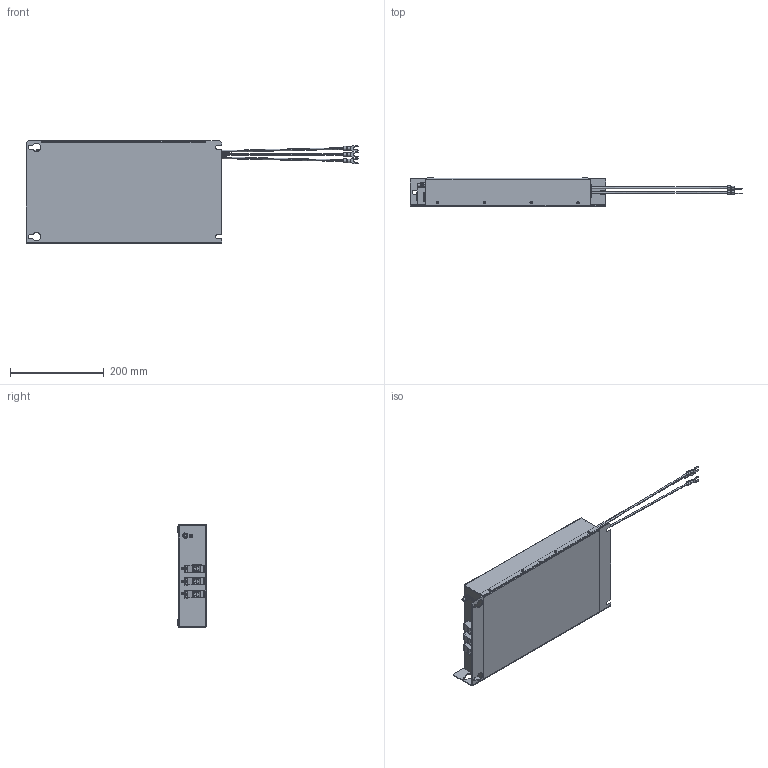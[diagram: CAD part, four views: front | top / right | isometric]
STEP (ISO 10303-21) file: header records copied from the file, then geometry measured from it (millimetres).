
FILE_DESCRIPTION (( 'STEP AP214' ), '1' );
FILE_NAME ('EFR-EFF-3I-76A.STEP', '2026-03-25T09:24:10', ( '' ), ( '' ), 'SwSTEP 2.0', 'SolidWorks 2025', '' );
FILE_SCHEMA (( 'AUTOMOTIVE_DESIGN' ));
Length unit declared in the file: millimetre
Products named in the file (17): Kontaktbereich.1; M8 revit nut; MPT2515_1; ISO 4017 - M6 x 20; 1000-512.Harness2; IS 6735 - 6; 3I R2.0(2); BUSHING 25_1; Isolierh_X_FClse; ANSI B18.2.4.5M - M6 x 1; 1000-512_1; ISO 7092 - ST 6 - 140 HV; 1000-512L; C-FCI_6_M6; IFI 505 - 42, FHSBMBR_2; 1000-512.Harness2_1; EFR-EFF-3I-76A
Assembly tree (32 placements, depth 4):
  EFR-EFF-3I-76A
    3I R2.0(2)
      C-FCI_6_M6  x3
        Isolierh_X_FClse
        Kontaktbereich.1
      1000-512.Harness2
        1000-512.Harness2_1
      1000-512_1
      1000-512L
      MPT2515_1  x3
      ISO 4017 - M6 x 20
      ANSI B18.2.4.5M - M6 x 1  x2
      ISO 7092 - ST 6 - 140 HV  x2
      IS 6735 - 6
      M8 revit nut  x4
      BUSHING 25_1
      IFI 505 - 42, FHSBMBR_2  x8
Bounding box: 709.29 x 60 x 220.42 mm (x, y, z)
Volume: 403333.5 mm3; surface area: 529526.2 mm2
Topology: 431 solids, 440 shells, 4024 faces, 8985 edges, 5901 vertices
Faces by surface type: plane 2617, cylinder 1158, cone 136, bspline 65, torus 36, sphere 12
Entity records: 39282 total; most frequent: CARTESIAN_POINT 9061, ORIENTED_EDGE 6017, DIRECTION 5673, EDGE_CURVE 3017, AXIS2_PLACEMENT_3D 1970, VERTEX_POINT 1967, LINE 1733, VECTOR 1733
